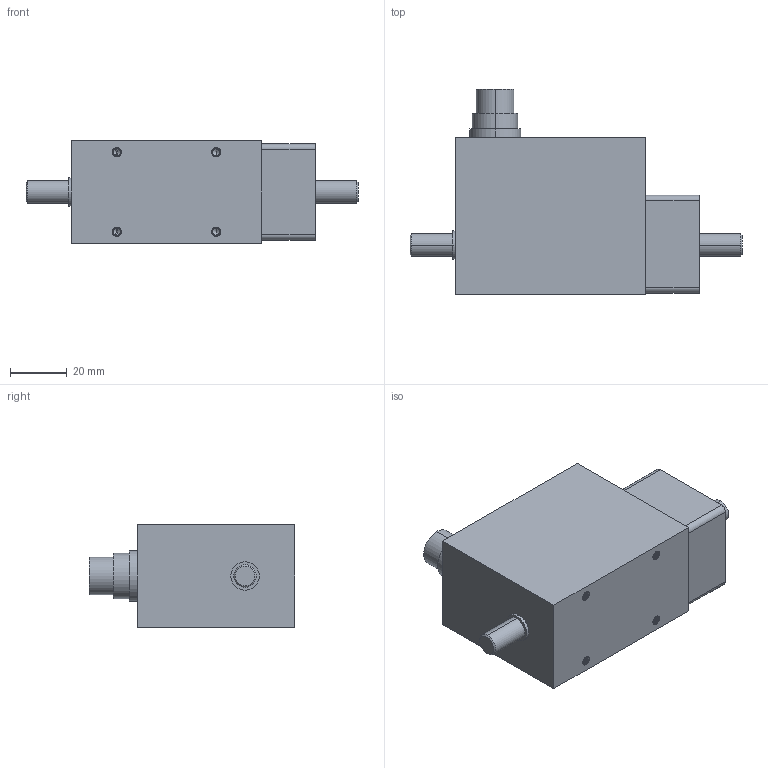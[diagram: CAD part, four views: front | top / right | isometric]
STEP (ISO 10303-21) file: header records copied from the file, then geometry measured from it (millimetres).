
FILE_DESCRIPTION (( 'STEP AP203' ), '1' );
FILE_NAME ('WTQ-2500-5Nm.SLDPRT.STEP', '2022-10-27T06:00:35', ( '微软用户' ), ( '微软中国' ), 'SwSTEP 2.0', 'SolidWorks 2018', '' );
FILE_SCHEMA (( 'CONFIG_CONTROL_DESIGN' ));
Length unit declared in the file: millimetre
Products named in the file (1): WTQ-2500-5Nm.SLDPRT
Bounding box: 117 x 72.4 x 36 mm (x, y, z)
Volume: 160268.6 mm3; surface area: 20746.4 mm2
Topology: 1 solids, 1 shells, 173 faces, 476 edges, 308 vertices
Faces by surface type: cylinder 120, plane 21, cone 20, bspline 12
Entity records: 12371 total; most frequent: CARTESIAN_POINT 8606, ORIENTED_EDGE 936, DIRECTION 616, EDGE_CURVE 468, VERTEX_POINT 308, AXIS2_PLACEMENT_3D 218, EDGE_LOOP 184, VECTOR 180
